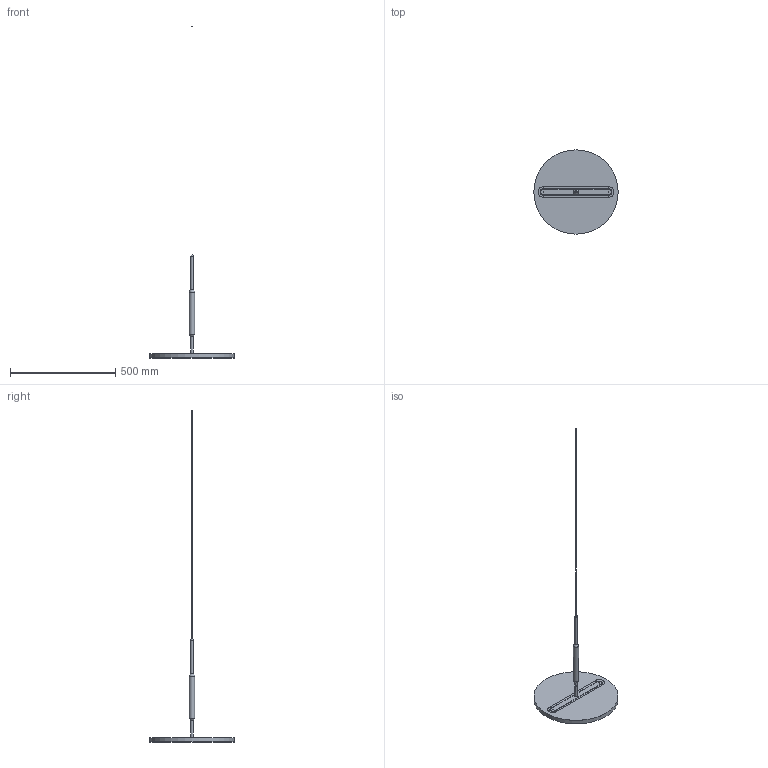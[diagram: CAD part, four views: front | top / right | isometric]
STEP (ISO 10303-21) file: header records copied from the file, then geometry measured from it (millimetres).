
FILE_DESCRIPTION(('HOOPS Exchange Step'),'2;1');
FILE_NAME('/Users/denyssokolov/Library/CloudStorage/GoogleDrive-svoyawork@gmail.com/Мій диск/Objects/PRESENTATION/46_FOG_lighting/NEW/FOG/fog_400/models/FOG_400.stp','2025-05-06T10:35:09+03:00',('denyssokolov'),('Unknown organisation'),'HOOPS Exchange 2024.2','HOOPS Exchange','Unknown authorisation');
FILE_SCHEMA( ('AP203_CONFIGURATION_CONTROLLED_3D_DESIGN_OF_MECHANICAL_PARTS_AND_ASSEMBLIES_MIM_LF') );
Length unit declared in the file: millimetre
Products named in the file (1): root
Bounding box: 400 x 400 x 1575.17 mm (x, y, z)
Volume: 2451838.6 mm3; surface area: 409090.2 mm2
Topology: 15 solids, 15 shells, 388 faces, 928 edges, 572 vertices
Faces by surface type: plane 142, cone 140, bspline 50, cylinder 48, sphere 6, offset 2
Full cylindrical faces by diameter (mm): 1.998 x12, 2 x2, 3 x16, 8 x2, 10 x5, 23 x1, 25 x1, 400 x1
Entity records: 16552 total; most frequent: CARTESIAN_POINT 7545, DIRECTION 1890, ORIENTED_EDGE 1852, EDGE_CURVE 926, AXIS2_PLACEMENT_3D 727, VERTEX_POINT 572, VECTOR 436, LINE 434
